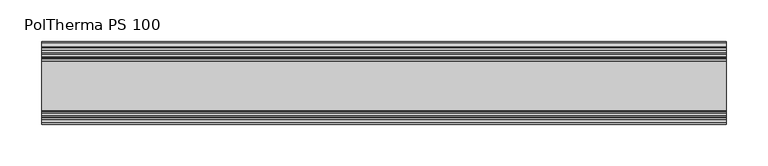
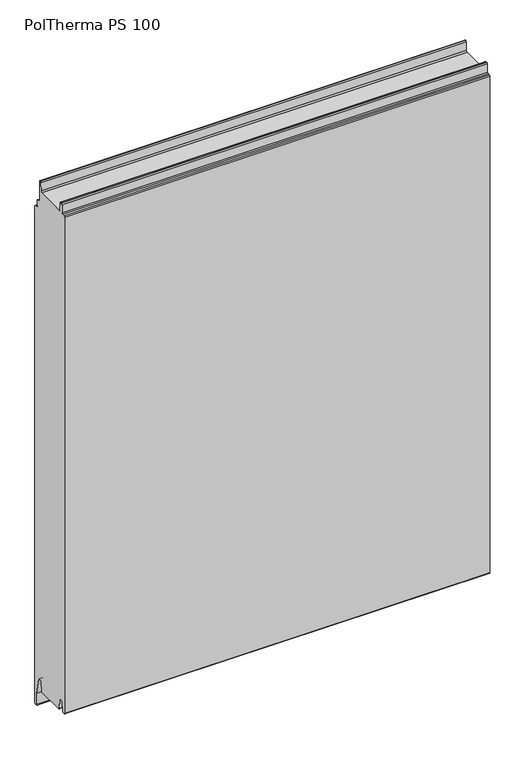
"""IFC4 building model written with IfcOpenShell, lengths in millimetres: plate geometry, Europanels_Poltherma PS_Hz : PolTherma PS 100."""

from ifc_helpers import new_model, si_unit, frame, origin, place, context, project, spatial, polyline, circle_curve, source, transform, mapped, element, save
from ifc_brep_helpers import plane_surface, cylinder_surface, revolved_surface, advanced_brep


def poltherma_ps_100_4c77af7c(model_context):
    return source(origin(), model_context, "Body", "AdvancedBrep", [
        advanced_brep(
        [(412.5, 50.0, 3.6911192), (412.5, 50.0, 1022.2385671), (412.5, 48.4255288, 1024.3101044), (412.5, 43.7941649, 1025.5968219), (412.5, 42.0, 1027.9574109), (412.5, 42.0, 1038.5271022), (412.5, 39.65, 1040.8771022), (412.5, 36.65, 1040.8771022), (412.5, 34.0, 1043.5271022), (412.5, 34.0, 1082.1367317), (412.5, 31.7657157, 1084.2363881), (412.5, 29.6717693, 1082.2998467), (412.5, 28.9864093, 1065.781124), (412.5, 26.3385145, 1063.2367317), (412.5, -33.7011224, 1063.2367317), (412.5, -34.4432694, 1079.8261148), (412.5, -36.4412711, 1081.7367317), (412.5, -39.1905122, 1081.7367317), (412.5, -41.1863232, 1079.8661089), (412.5, -42.2402866, 1063.6073545), (412.5, -44.2360976, 1061.7367317), (412.5, -47.9973085, 1061.7367317), (412.5, -49.9973085, 1059.7367317), (412.5, -50.0, 41.7345224), (412.5, -47.9973085, 39.7345224), (412.5, -45.27015, 39.7345224), (412.5, -43.2805625, 41.5307044), (412.5, -42.306057, 59.5434261), (412.5, -39.3216758, 62.2376991), (412.5, -36.3730069, 62.2376991), (412.5, -33.3900718, 59.5572268), (412.5, -32.337447, 41.2981312), (412.5, -30.5974015, 39.7345224), (412.5, 25.3314364, 38.2345224), (412.5, 27.6798185, 40.4973354), (412.5, 28.3397973, 58.2738665), (412.5, 30.9832499, 60.7376991), (412.5, 34.3675437, 60.7376991), (412.5, 36.9690493, 58.5923462), (412.5, 43.3, 25.9556669), (412.5, 43.3, 3.2773261), (412.5, 45.8152999, 1.1585869), (412.5, 48.2152999, 1.57238), (-412.5, 50.0, 3.6911192), (-412.5, 48.2152999, 1.57238), (-412.5, 45.8152999, 1.1585869), (-412.5, 43.3, 3.2773261), (-412.5, 43.3, 25.9556669), (-412.5, 36.9690493, 58.5923462), (-412.5, 34.3675437, 60.7376991), (-412.5, 30.9832499, 60.7376991), (-412.5, 28.3397973, 58.2738665), (-412.5, 27.6798185, 40.4973354), (-412.5, 25.3314364, 38.2345224), (-412.5, -30.5974015, 39.7345224), (-412.5, -32.337447, 41.2981312), (-412.5, -33.3900718, 59.5572268), (-412.5, -36.3730069, 62.2376991), (-412.5, -39.3216758, 62.2376991), (-412.5, -42.306057, 59.5434261), (-412.5, -43.2805625, 41.5307044), (-412.5, -45.27015, 39.7345224), (-412.5, -47.9973085, 39.7345224), (-412.5, -49.9973085, 41.7345224), (-412.5, -50.0, 1059.7367317), (-412.5, -47.9973085, 1061.7367317), (-412.5, -44.2360976, 1061.7367317), (-412.5, -42.2402866, 1063.6073545), (-412.5, -41.1863232, 1079.8661089), (-412.5, -39.1905122, 1081.7367317), (-412.5, -36.4412711, 1081.7367317), (-412.5, -34.4432694, 1079.8261148), (-412.5, -33.7011224, 1063.2367317), (-412.5, 26.3385145, 1063.2367317), (-412.5, 28.9864093, 1065.781124), (-412.5, 29.6452624, 1082.300507), (-412.5, 31.7657157, 1084.2363881), (-412.5, 33.9748677, 1082.1374188), (-412.5, 34.0, 1043.5271022), (-412.5, 36.65, 1040.8771022), (-412.5, 39.65, 1040.8771022), (-412.5, 42.0, 1038.5271022), (-412.5, 42.0, 1027.9574109), (-412.5, 43.7941649, 1025.5968219), (-412.5, 48.4255288, 1024.3101044), (-412.5, 50.0, 1022.2385671)],
        [
            (0, 1),
            (1, 2, circle_curve(frame((412.5, 47.85, 1022.2385671), z_axis=(1.0, 0.0, 0.0), x_axis=(0.0, 1.0, 0.0)), 2.15)),
            (2, 3),
            (3, 4, circle_curve(frame((412.5, 44.45, 1027.9574109), z_axis=(-1.0, 0.0, 0.0), x_axis=(0.0, 1.0, 0.0)), 2.45)),
            (4, 5),
            (5, 6, circle_curve(frame((412.5, 39.65, 1038.5271022), z_axis=(1.0, 0.0, 0.0), x_axis=(0.0, 1.0, 0.0)), 2.35)),
            (6, 7),
            (7, 8, circle_curve(frame((412.5, 36.65, 1043.5271022), z_axis=(-1.0, 0.0, 0.0), x_axis=(0.0, 1.0, 0.0)), 2.65)),
            (8, 9),
            (9, 10, circle_curve(frame((412.5, 31.8731507, 1082.1374188), z_axis=(1.0, 0.0, 0.0), x_axis=(0.0, 1.0, 0.0)), 2.101717)),
            (10, 11, circle_curve(frame((412.5, 31.7657157, 1082.1360446), z_axis=(1.0, 0.0, 0.0), x_axis=(0.0, 1.0, 0.0)), 2.1003435)),
            (11, 12),
            (12, 13, circle_curve(frame((412.5, 26.3385145, 1065.8867317), z_axis=(-1.0, 0.0, 0.0), x_axis=(0.0, 1.0, 0.0)), 2.65)),
            (13, 14),
            (14, 15),
            (15, 16, circle_curve(frame((412.5, -36.4412711, 1079.7367317), z_axis=(1.0, 0.0, 0.0), x_axis=(0.0, 1.0, 0.0)), 2.0)),
            (16, 17),
            (17, 18, circle_curve(frame((412.5, -39.1905122, 1079.7367317), z_axis=(1.0, 0.0, 0.0), x_axis=(0.0, 1.0, 0.0)), 2.0)),
            (18, 19),
            (19, 20, circle_curve(frame((412.5, -44.2360976, 1063.7367317), z_axis=(-1.0, 0.0, 0.0), x_axis=(0.0, 1.0, 0.0)), 2.0)),
            (20, 21),
            (21, 22, circle_curve(frame((412.5, -47.9973085, 1059.7367317), z_axis=(1.0, 0.0, 0.0), x_axis=(0.0, 1.0, 0.0)), 2.0)),
            (22, 23),
            (23, 24, circle_curve(frame((412.5, -47.9973085, 41.7345224), z_axis=(1.0, 0.0, 0.0), x_axis=(0.0, 1.0, 0.0)), 2.0)),
            (24, 25),
            (25, 26, circle_curve(frame((412.5, -45.27015, 41.7345224), z_axis=(1.0, 0.0, 0.0), x_axis=(0.0, 1.0, 0.0)), 2.0)),
            (26, 27),
            (27, 28, circle_curve(frame((412.5, -39.3216758, 59.2376991), z_axis=(-1.0, 0.0, 0.0), x_axis=(0.0, 1.0, 0.0)), 3.0)),
            (28, 29),
            (29, 30, circle_curve(frame((412.5, -36.3730069, 59.2376991), z_axis=(-1.0, 0.0, 0.0), x_axis=(0.0, 1.0, 0.0)), 3.0)),
            (30, 31),
            (31, 32, circle_curve(frame((412.5, -30.5974015, 41.4845224), z_axis=(1.0, 0.0, 0.0), x_axis=(0.0, 1.0, 0.0)), 1.75)),
            (32, 33),
            (33, 34, circle_curve(frame((412.5, 25.3314364, 40.5845224), z_axis=(1.0, 0.0, 0.0), x_axis=(0.0, 1.0, 0.0)), 2.35)),
            (34, 35),
            (35, 36, circle_curve(frame((412.5, 30.9832499, 58.0876991), z_axis=(-1.0, 0.0, 0.0), x_axis=(0.0, 1.0, 0.0)), 2.65)),
            (36, 37),
            (37, 38, circle_curve(frame((412.5, 34.3675437, 58.0876991), z_axis=(-1.0, 0.0, 0.0), x_axis=(0.0, 1.0, 0.0)), 2.65)),
            (38, 39),
            (39, 40),
            (40, 41, circle_curve(frame((412.5, 45.45, 3.2773261), z_axis=(1.0, 0.0, 0.0), x_axis=(0.0, 1.0, 0.0)), 2.15)),
            (41, 42),
            (42, 0, circle_curve(frame((412.5, 47.85, 3.6911192), z_axis=(1.0, 0.0, 0.0), x_axis=(0.0, 1.0, 0.0)), 2.15)),
            (43, 44, circle_curve(frame((-412.5, 47.85, 3.6911192), z_axis=(-1.0, 0.0, 0.0), x_axis=(0.0, 1.0, 0.0)), 2.15)),
            (44, 45),
            (45, 46, circle_curve(frame((-412.5, 45.45, 3.2773261), z_axis=(-1.0, 0.0, 0.0), x_axis=(0.0, 1.0, 0.0)), 2.15)),
            (46, 47),
            (47, 48),
            (48, 49, circle_curve(frame((-412.5, 34.3675437, 58.0876991), z_axis=(1.0, 0.0, 0.0), x_axis=(0.0, 1.0, 0.0)), 2.65)),
            (49, 50),
            (50, 51, circle_curve(frame((-412.5, 30.9832499, 58.0876991), z_axis=(1.0, 0.0, 0.0), x_axis=(0.0, 1.0, 0.0)), 2.65)),
            (51, 52),
            (52, 53, circle_curve(frame((-412.5, 25.3314364, 40.5845224), z_axis=(-1.0, 0.0, 0.0), x_axis=(0.0, 1.0, 0.0)), 2.35)),
            (53, 54),
            (54, 55, circle_curve(frame((-412.5, -30.5974015, 41.4845224), z_axis=(-1.0, 0.0, 0.0), x_axis=(0.0, 1.0, 0.0)), 1.75)),
            (55, 56),
            (56, 57, circle_curve(frame((-412.5, -36.3730069, 59.2376991), z_axis=(1.0, 0.0, 0.0), x_axis=(0.0, 1.0, 0.0)), 3.0)),
            (57, 58),
            (58, 59, circle_curve(frame((-412.5, -39.3216758, 59.2376991), z_axis=(1.0, 0.0, 0.0), x_axis=(0.0, 1.0, 0.0)), 3.0)),
            (59, 60),
            (60, 61, circle_curve(frame((-412.5, -45.27015, 41.7345224), z_axis=(-1.0, 0.0, 0.0), x_axis=(0.0, 1.0, 0.0)), 2.0)),
            (61, 62),
            (62, 63, circle_curve(frame((-412.5, -47.9973085, 41.7345224), z_axis=(-1.0, 0.0, 0.0), x_axis=(0.0, 1.0, 0.0)), 2.0)),
            (63, 64),
            (64, 65, circle_curve(frame((-412.5, -47.9973085, 1059.7367317), z_axis=(-1.0, 0.0, 0.0), x_axis=(0.0, 1.0, 0.0)), 2.0)),
            (65, 66),
            (66, 67, circle_curve(frame((-412.5, -44.2360976, 1063.7367317), z_axis=(1.0, 0.0, 0.0), x_axis=(0.0, 1.0, 0.0)), 2.0)),
            (67, 68),
            (68, 69, circle_curve(frame((-412.5, -39.1905122, 1079.7367317), z_axis=(-1.0, 0.0, 0.0), x_axis=(0.0, 1.0, 0.0)), 2.0)),
            (69, 70),
            (70, 71, circle_curve(frame((-412.5, -36.4412711, 1079.7367317), z_axis=(-1.0, 0.0, 0.0), x_axis=(0.0, 1.0, 0.0)), 2.0)),
            (71, 72),
            (72, 73),
            (73, 74, circle_curve(frame((-412.5, 26.3385145, 1065.8867317), z_axis=(1.0, 0.0, 0.0), x_axis=(0.0, 1.0, 0.0)), 2.65)),
            (74, 75),
            (75, 76, circle_curve(frame((-412.5, 31.7657157, 1082.1360446), z_axis=(-1.0, 0.0, 0.0), x_axis=(0.0, 1.0, 0.0)), 2.1003435)),
            (76, 77, circle_curve(frame((-412.5, 31.8731507, 1082.1374188), z_axis=(-1.0, 0.0, 0.0), x_axis=(0.0, 1.0, 0.0)), 2.101717)),
            (77, 78),
            (78, 79, circle_curve(frame((-412.5, 36.65, 1043.5271022), z_axis=(1.0, 0.0, 0.0), x_axis=(0.0, 1.0, 0.0)), 2.65)),
            (79, 80),
            (80, 81, circle_curve(frame((-412.5, 39.65, 1038.5271022), z_axis=(-1.0, 0.0, 0.0), x_axis=(0.0, 1.0, 0.0)), 2.35)),
            (81, 82),
            (82, 83, circle_curve(frame((-412.5, 44.45, 1027.9574109), z_axis=(1.0, 0.0, 0.0), x_axis=(0.0, 1.0, 0.0)), 2.45)),
            (83, 84),
            (84, 85, circle_curve(frame((-412.5, 47.85, 1022.2385671), z_axis=(-1.0, 0.0, 0.0), x_axis=(0.0, 1.0, 0.0)), 2.15)),
            (85, 43),
            (0, 43),
            (85, 1),
            (84, 2),
            (83, 3),
            (82, 4),
            (81, 5),
            (80, 6),
            (79, 7),
            (78, 8),
            (77, 9),
            (76, 10),
            (75, 11),
            (74, 12),
            (73, 13),
            (72, 14),
            (71, 15),
            (70, 16),
            (69, 17),
            (68, 18),
            (67, 19),
            (66, 20),
            (65, 21),
            (64, 22),
            (63, 23),
            (62, 24),
            (61, 25),
            (60, 26),
            (59, 27),
            (58, 28),
            (57, 29),
            (56, 30),
            (55, 31),
            (54, 32),
            (53, 33),
            (52, 34),
            (51, 35),
            (50, 36),
            (49, 37),
            (48, 38),
            (47, 39),
            (46, 40),
            (45, 41),
            (44, 42),
        ],
        [
            plane_surface(frame((412.5, 50.0, 1022.2385671), z_axis=(1.0, 0.0, 0.0), x_axis=(0.0, 0.0, 1.0))),
            plane_surface(frame((-412.5, 50.0, 1022.2385671), z_axis=(-1.0, 0.0, 0.0), x_axis=(0.0, 0.0, -1.0))),
            plane_surface(frame((412.5, 50.0, 3.6911192), z_axis=(0.0, 1.0, 0.0), x_axis=(-1.0, 0.0, 0.0))),
            cylinder_surface(frame((-412.5, 47.85, 1022.2385671), z_axis=(1.0, 0.0, 0.0), x_axis=(0.0, 1.0, 0.0)), 2.15),
            plane_surface(frame((412.5, 48.4255288, 1024.3101044), z_axis=(0.0, 0.2676878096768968, 0.9635057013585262), x_axis=(-1.0, 0.0, 0.0))),
            revolved_surface(polyline([(-412.5, 46.900000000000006, 1027.9574109), (412.5, 46.900000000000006, 1027.9574109)]), (-412.5, 44.45, 1027.9574109), (-1.0, 0.0, 0.0)),
            plane_surface(frame((412.5, 42.0, 1027.9574109), z_axis=(0.0, 1.0, 0.0), x_axis=(-1.0, 0.0, 0.0))),
            cylinder_surface(frame((-412.5, 39.65, 1038.5271022), z_axis=(1.0, 0.0, 0.0), x_axis=(0.0, 1.0, 0.0)), 2.35),
            plane_surface(frame((412.5, 39.65, 1040.8771022), z_axis=(0.0, 0.0, 1.0), x_axis=(-1.0, 0.0, 0.0))),
            revolved_surface(polyline([(-412.5, 39.3, 1043.5271022), (412.5, 39.3, 1043.5271022)]), (-412.5, 36.65, 1043.5271022), (-1.0, 0.0, 0.0)),
            plane_surface(frame((412.5, 34.0, 1043.5271022), z_axis=(0.0, 1.0, 0.0), x_axis=(-1.0, 0.0, 0.0))),
            cylinder_surface(frame((-412.5, 31.8731507, 1082.1374188), z_axis=(1.0, 0.0, 0.0), x_axis=(0.0, 1.0, 0.0)), 2.101717),
            cylinder_surface(frame((-412.5, 31.7657157, 1082.1360446), z_axis=(1.0, 0.0, 0.0), x_axis=(0.0, 1.0, 0.0)), 2.1003435),
            plane_surface(frame((412.5, 29.6452624, 1082.300507), z_axis=(0.0, -0.9992055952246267, 0.03985195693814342), x_axis=(-1.0, 0.0, 0.0))),
            revolved_surface(polyline([(-412.5, 28.988514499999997, 1065.8867317), (412.5, 28.988514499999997, 1065.8867317)]), (-412.5, 26.3385145, 1065.8867317), (-1.0, 0.0, 0.0)),
            plane_surface(frame((412.5, 26.3385145, 1063.2367317), z_axis=(0.0, 0.0, 1.0), x_axis=(-1.0, 0.0, 0.0))),
            plane_surface(frame((412.5, -33.7011224, 1063.2367317), z_axis=(0.0, 0.9990008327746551, 0.044691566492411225), x_axis=(-1.0, 0.0, 0.0))),
            cylinder_surface(frame((-412.5, -36.4412711, 1079.7367317), z_axis=(1.0, 0.0, 0.0), x_axis=(0.0, 1.0, 0.0)), 2.0),
            plane_surface(frame((412.5, -36.4412711, 1081.7367317), z_axis=(0.0, 0.0, 1.0), x_axis=(-1.0, 0.0, 0.0))),
            cylinder_surface(frame((-412.5, -39.1905122, 1079.7367317), z_axis=(1.0, 0.0, 0.0), x_axis=(0.0, 1.0, 0.0)), 2.0),
            plane_surface(frame((412.5, -41.1863232, 1079.8661089), z_axis=(0.0, -0.9979054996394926, 0.06468859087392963), x_axis=(-1.0, 0.0, 0.0))),
            revolved_surface(polyline([(-412.5, -42.2360976, 1063.7367317), (412.5, -42.2360976, 1063.7367317)]), (-412.5, -44.2360976, 1063.7367317), (-1.0, 0.0, 0.0)),
            plane_surface(frame((412.5, -44.2360976, 1061.7367317), z_axis=(0.0, 0.0, 1.0), x_axis=(-1.0, 0.0, 0.0))),
            cylinder_surface(frame((-412.5, -47.9973085, 1059.7367317), z_axis=(1.0, 0.0, 0.0), x_axis=(0.0, 1.0, 0.0)), 2.0),
            plane_surface(frame((412.5, -50.0, 1059.7367317), z_axis=(0.0, -1.0, 0.0), x_axis=(-1.0, 0.0, 0.0))),
            cylinder_surface(frame((-412.5, -47.9973085, 41.7345224), z_axis=(1.0, 0.0, 0.0), x_axis=(0.0, 1.0, 0.0)), 2.0),
            plane_surface(frame((412.5, -47.9973085, 39.7345224), z_axis=(0.0, 0.0, -1.0), x_axis=(-1.0, 0.0, 0.0))),
            cylinder_surface(frame((-412.5, -45.27015, 41.7345224), z_axis=(1.0, 0.0, 0.0), x_axis=(0.0, 1.0, 0.0)), 2.0),
            plane_surface(frame((412.5, -43.2805625, 41.5307044), z_axis=(0.0, 0.9985397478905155, -0.054021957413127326), x_axis=(-1.0, 0.0, 0.0))),
            revolved_surface(polyline([(-412.5, -36.3216758, 59.2376991), (412.5, -36.3216758, 59.2376991)]), (-412.5, -39.3216758, 59.2376991), (-1.0, 0.0, 0.0)),
            plane_surface(frame((412.5, -39.3216758, 62.2376991), z_axis=(0.0, 0.0, -1.0), x_axis=(-1.0, 0.0, 0.0))),
            revolved_surface(polyline([(-412.5, -33.3730069, 59.2376991), (412.5, -33.3730069, 59.2376991)]), (-412.5, -36.3730069, 59.2376991), (-1.0, 0.0, 0.0)),
            plane_surface(frame((412.5, -33.3900718, 59.5572268), z_axis=(0.0, -0.9983424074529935, -0.05755377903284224), x_axis=(-1.0, 0.0, 0.0))),
            cylinder_surface(frame((-412.5, -30.5974015, 41.4845224), z_axis=(1.0, 0.0, 0.0), x_axis=(0.0, 1.0, 0.0)), 1.75),
            plane_surface(frame((412.5, -30.5974015, 39.7345224), z_axis=(0.0, -0.02681015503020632, -0.9996405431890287), x_axis=(-1.0, 0.0, 0.0))),
            cylinder_surface(frame((-412.5, 25.3314364, 40.5845224), z_axis=(1.0, 0.0, 0.0), x_axis=(0.0, 1.0, 0.0)), 2.35),
            plane_surface(frame((412.5, 27.6798185, 40.4973354), z_axis=(0.0, 0.9993115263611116, -0.037100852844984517), x_axis=(-1.0, 0.0, 0.0))),
            revolved_surface(polyline([(-412.5, 33.6332499, 58.0876991), (412.5, 33.6332499, 58.0876991)]), (-412.5, 30.9832499, 58.0876991), (-1.0, 0.0, 0.0)),
            plane_surface(frame((412.5, 30.9832499, 60.7376991), z_axis=(0.0, 2.141538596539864e-11, -1.0), x_axis=(-1.0, 0.0, 0.0))),
            revolved_surface(polyline([(-412.5, 37.0175437, 58.0876991), (412.5, 37.0175437, 58.0876991)]), (-412.5, 34.3675437, 58.0876991), (-1.0, 0.0, 0.0)),
            plane_surface(frame((412.5, 36.9690493, 58.5923462), z_axis=(0.0, -0.9817002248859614, -0.1904328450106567), x_axis=(-1.0, 0.0, 0.0))),
            plane_surface(frame((412.5, 43.3, 25.9556669), z_axis=(0.0, -1.0, 0.0), x_axis=(-1.0, 0.0, 0.0))),
            cylinder_surface(frame((-412.5, 45.45, 3.2773261), z_axis=(1.0, 0.0, 0.0), x_axis=(0.0, 1.0, 0.0)), 2.15),
            plane_surface(frame((412.5, 45.8152999, 1.1585869), z_axis=(0.0, 0.16990691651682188, -0.985460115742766), x_axis=(-1.0, 0.0, 0.0))),
            cylinder_surface(frame((-412.5, 47.85, 3.6911192), z_axis=(1.0, 0.0, 0.0), x_axis=(0.0, 1.0, 0.0)), 2.15),
        ],
        [
            (0, [[1, 2, 3, 4, 5, 6, 7, 8, 9, 10, 11, 12, 13, 14, 15, 16, 17, 18, 19, 20, 21, 22, 23, 24, 25, 26, 27, 28, 29, 30, 31, 32, 33, 34, 35, 36, 37, 38, 39, 40, 41, 42, 43]]),
            (1, [[44, 45, 46, 47, 48, 49, 50, 51, 52, 53, 54, 55, 56, 57, 58, 59, 60, 61, 62, 63, 64, 65, 66, 67, 68, 69, 70, 71, 72, 73, 74, 75, 76, 77, 78, 79, 80, 81, 82, 83, 84, 85, 86]]),
            (2, [[-1, 87, -86, 88]]),
            (3, [[-2, -88, -85, 89]]),
            (4, [[-3, -89, -84, 90]]),
            (5, [[-4, -90, -83, 91]]),
            (6, [[-5, -91, -82, 92]]),
            (7, [[-6, -92, -81, 93]]),
            (8, [[-7, -93, -80, 94]]),
            (9, [[-8, -94, -79, 95]]),
            (10, [[-9, -95, -78, 96]]),
            (11, [[-10, -96, -77, 97]]),
            (12, [[-11, -97, -76, 98]]),
            (13, [[-12, -98, -75, 99]]),
            (14, [[-13, -99, -74, 100]]),
            (15, [[-14, -100, -73, 101]]),
            (16, [[-15, -101, -72, 102]]),
            (17, [[-16, -102, -71, 103]]),
            (18, [[-17, -103, -70, 104]]),
            (19, [[-18, -104, -69, 105]]),
            (20, [[-19, -105, -68, 106]]),
            (21, [[-20, -106, -67, 107]]),
            (22, [[-21, -107, -66, 108]]),
            (23, [[-22, -108, -65, 109]]),
            (24, [[-23, -109, -64, 110]]),
            (25, [[-24, -110, -63, 111]]),
            (26, [[-25, -111, -62, 112]]),
            (27, [[-26, -112, -61, 113]]),
            (28, [[-27, -113, -60, 114]]),
            (29, [[-28, -114, -59, 115]]),
            (30, [[-29, -115, -58, 116]]),
            (31, [[-30, -116, -57, 117]]),
            (32, [[-31, -117, -56, 118]]),
            (33, [[-32, -118, -55, 119]]),
            (34, [[-33, -119, -54, 120]]),
            (35, [[-34, -120, -53, 121]]),
            (36, [[-35, -121, -52, 122]]),
            (37, [[-36, -122, -51, 123]]),
            (38, [[-37, -123, -50, 124]]),
            (39, [[-38, -124, -49, 125]]),
            (40, [[-39, -125, -48, 126]]),
            (41, [[-40, -126, -47, 127]]),
            (42, [[-41, -127, -46, 128]]),
            (43, [[-42, -128, -45, 129]]),
            (44, [[-43, -129, -44, -87]]),
        ],
    ),
    ])


if __name__ == "__main__":
    model = new_model("IFC4")
    model_context = context("Model", 3, world=origin())
    ifc_project = project(units=[si_unit("LENGTHUNIT", "METRE", prefix="MILLI")], contexts=[model_context])
    site = spatial("IfcSite", under=ifc_project)
    building = spatial("IfcBuilding", under=site)
    placement = place(None, origin())
    poltherma_ps_100_shape = poltherma_ps_100_4c77af7c(model_context)
    element("IfcPlate", 1, ObjectType="Europanels_Poltherma PS_Hz : PolTherma PS 100", at=placement, inside=building, context=model_context, shape_type="MappedRepresentation", body=[
        mapped(poltherma_ps_100_shape, transform((0.0, 0.0, 0.0), x_axis=(1.0, 0.0, 0.0), y_axis=(0.0, 1.0, 0.0), z_axis=(0.0, 0.0, 1.0))),
    ])
    save(model, "model.ifc")
